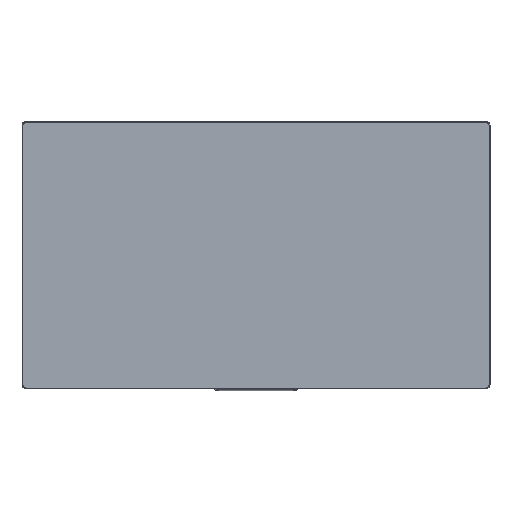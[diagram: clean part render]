
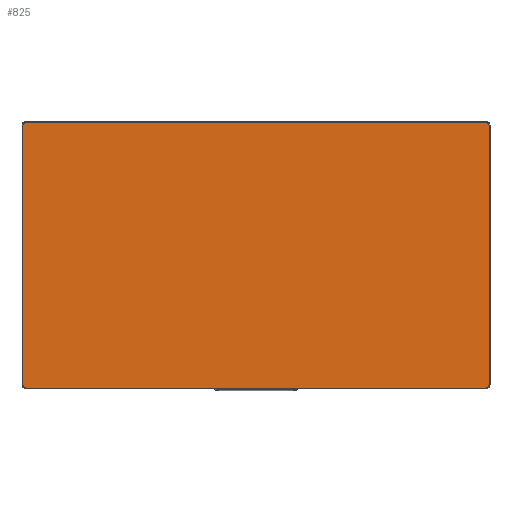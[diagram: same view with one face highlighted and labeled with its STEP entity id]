
A CAD part, top view. The second image highlights one B-rep face of the part: STEP entity #825.
In plain terms, the highlighted planar face has unit normal (0, 0, 1).
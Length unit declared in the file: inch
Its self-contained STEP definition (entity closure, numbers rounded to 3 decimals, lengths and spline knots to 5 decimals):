
#50=PLANE('',#920);
#100=FACE_OUTER_BOUND('',#163,.T.);
#163=EDGE_LOOP('',(#709,#710,#711,#712,#713,#714,#715,#716));
#222=LINE('',#1402,#286);
#226=LINE('',#1413,#290);
#229=LINE('',#1421,#293);
#232=LINE('',#1428,#296);
#286=VECTOR('',#1108,0.3937);
#290=VECTOR('',#1120,0.3937);
#293=VECTOR('',#1129,0.3937);
#296=VECTOR('',#1138,0.3937);
#351=CIRCLE('',#906,0.1);
#353=CIRCLE('',#910,0.1);
#354=CIRCLE('',#913,0.1);
#355=CIRCLE('',#916,0.1);
#414=VERTEX_POINT('',#1392);
#417=VERTEX_POINT('',#1397);
#418=VERTEX_POINT('',#1401);
#420=VERTEX_POINT('',#1407);
#421=VERTEX_POINT('',#1412);
#422=VERTEX_POINT('',#1416);
#423=VERTEX_POINT('',#1420);
#424=VERTEX_POINT('',#1424);
#510=EDGE_CURVE('',#417,#414,#351,.T.);
#511=EDGE_CURVE('',#414,#418,#222,.T.);
#516=EDGE_CURVE('',#418,#420,#353,.T.);
#517=EDGE_CURVE('',#420,#421,#226,.T.);
#520=EDGE_CURVE('',#421,#422,#354,.T.);
#521=EDGE_CURVE('',#422,#423,#229,.T.);
#524=EDGE_CURVE('',#423,#424,#355,.T.);
#525=EDGE_CURVE('',#424,#417,#232,.T.);
#709=ORIENTED_EDGE('',*,*,#510,.F.);
#710=ORIENTED_EDGE('',*,*,#525,.F.);
#711=ORIENTED_EDGE('',*,*,#524,.F.);
#712=ORIENTED_EDGE('',*,*,#521,.F.);
#713=ORIENTED_EDGE('',*,*,#520,.F.);
#714=ORIENTED_EDGE('',*,*,#517,.F.);
#715=ORIENTED_EDGE('',*,*,#516,.F.);
#716=ORIENTED_EDGE('',*,*,#511,.F.);
#825=ADVANCED_FACE('',(#100),#50,.T.);
#906=AXIS2_PLACEMENT_3D('',#1399,#1104,#1105);
#910=AXIS2_PLACEMENT_3D('',#1410,#1116,#1117);
#913=AXIS2_PLACEMENT_3D('',#1418,#1125,#1126);
#916=AXIS2_PLACEMENT_3D('',#1426,#1134,#1135);
#920=AXIS2_PLACEMENT_3D('',#1434,#1146,#1147);
#1104=DIRECTION('center_axis',(0.,0.,-1.));
#1105=DIRECTION('ref_axis',(-0.707,0.707,0.));
#1108=DIRECTION('',(1.,0.,0.));
#1116=DIRECTION('center_axis',(0.,0.,-1.));
#1117=DIRECTION('ref_axis',(0.707,0.707,0.));
#1120=DIRECTION('',(0.,-1.,0.));
#1125=DIRECTION('center_axis',(0.,0.,-1.));
#1126=DIRECTION('ref_axis',(0.707,-0.707,0.));
#1129=DIRECTION('',(-1.,0.,0.));
#1134=DIRECTION('center_axis',(0.,0.,-1.));
#1135=DIRECTION('ref_axis',(-0.707,-0.707,0.));
#1138=DIRECTION('',(0.,1.,0.));
#1146=DIRECTION('center_axis',(0.,0.,1.));
#1147=DIRECTION('ref_axis',(1.,0.,0.));
#1392=CARTESIAN_POINT('',(-6.875,3.975,1.25));
#1397=CARTESIAN_POINT('',(-6.975,3.875,1.25));
#1399=CARTESIAN_POINT('Origin',(-6.875,3.875,1.25));
#1401=CARTESIAN_POINT('',(6.875,3.975,1.25));
#1402=CARTESIAN_POINT('',(3.5,3.975,1.25));
#1407=CARTESIAN_POINT('',(6.975,3.875,1.25));
#1410=CARTESIAN_POINT('Origin',(6.875,3.875,1.25));
#1412=CARTESIAN_POINT('',(6.975,-3.875,1.25));
#1413=CARTESIAN_POINT('',(6.975,-2.,1.25));
#1416=CARTESIAN_POINT('',(6.875,-3.975,1.25));
#1418=CARTESIAN_POINT('Origin',(6.875,-3.875,1.25));
#1420=CARTESIAN_POINT('',(-6.875,-3.975,1.25));
#1421=CARTESIAN_POINT('',(-3.5,-3.975,1.25));
#1424=CARTESIAN_POINT('',(-6.975,-3.875,1.25));
#1426=CARTESIAN_POINT('Origin',(-6.875,-3.875,1.25));
#1428=CARTESIAN_POINT('',(-6.975,2.,1.25));
#1434=CARTESIAN_POINT('Origin',(0.,0.,1.25));
